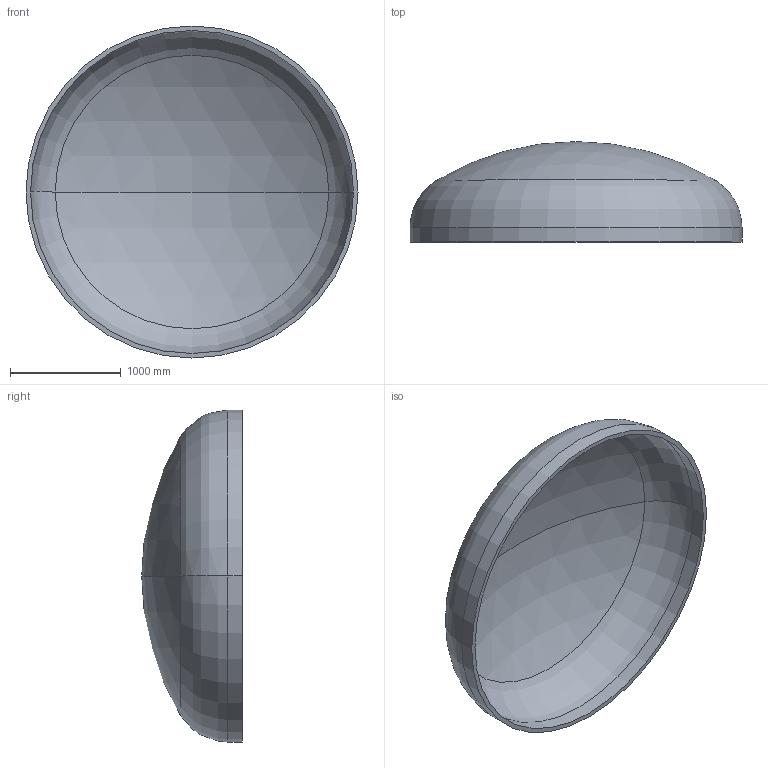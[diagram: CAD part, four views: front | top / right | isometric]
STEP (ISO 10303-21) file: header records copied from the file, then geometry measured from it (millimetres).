
FILE_DESCRIPTION (( 'STEP AP203' ), '1' );
FILE_NAME ('DIN 28013 Korbbogenform_-_Boden DIN 28013 - 3000 x 130 - I - s=41.step', '2016-07-01T17:46:36', ( '' ), ( '' ), 'SwSTEP 2.0', 'SolidWorks 2013', '' );
FILE_SCHEMA (( 'CONFIG_CONTROL_DESIGN' ));
Length unit declared in the file: millimetre
Products named in the file (1): DIN 28013 Korbbogenform_-_Boden DIN 28013 - 3000 x 130 - I - s=41
Bounding box: 3000 x 907.99 x 3000 mm (x, y, z)
Volume: 443412986.4 mm3; surface area: 22014549.8 mm2
Topology: 1 solids, 1 shells, 13 faces, 24 edges, 14 vertices
Faces by surface type: torus 4, cylinder 4, sphere 4, plane 1
Entity records: 407 total; most frequent: DIRECTION 72, CARTESIAN_POINT 52, ORIENTED_EDGE 48, AXIS2_PLACEMENT_3D 34, EDGE_CURVE 24, CIRCLE 20, EDGE_LOOP 14, VERTEX_POINT 14
